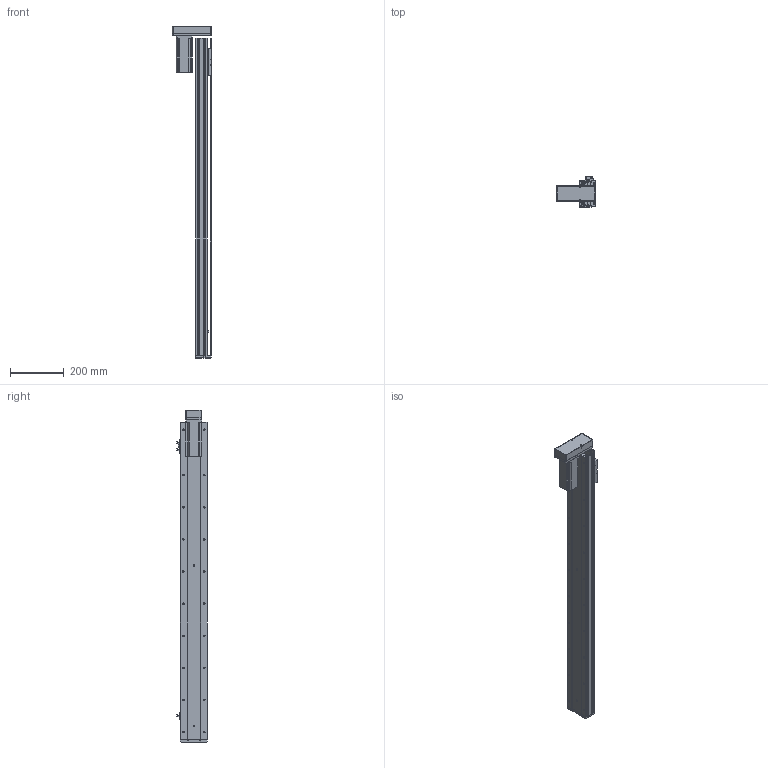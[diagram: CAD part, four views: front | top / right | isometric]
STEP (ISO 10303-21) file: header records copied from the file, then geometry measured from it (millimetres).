
FILE_DESCRIPTION (( 'STEP AP214' ), '1' );
FILE_NAME ('KSD100S-S1000-MD-CM.STEP', '2019-08-30T03:47:00', ( '微软用户' ), ( '微软中国' ), 'SwSTEP 2.0', 'SolidWorks 2014', '' );
FILE_SCHEMA (( 'AUTOMOTIVE_DESIGN' ));
Length unit declared in the file: millimetre
Products named in the file (10): 100遵傷啣; 100宽底板半封闭丝杆1000行程; KSD100S-S1000-MD-CM; 悵誘欶奻狟殏; 100宽马达安装板连板上下折丝杆同步带; 台达ECMA－C20604AS伺服电机; 覜茼え100遵圉猾敕; U倰嫖萇EEㄜSX672; 100宽防尘板丝杆1000行程; 100宽滚珠螺姆安装板半封闭
Assembly tree (11 placements, depth 2):
  KSD100S-S1000-MD-CM
    100宽底板半封闭丝杆1000行程
    100遵傷啣
    100宽滚珠螺姆安装板半封闭
    100宽防尘板丝杆1000行程
    U倰嫖萇EEㄜSX672  x3
    覜茼え100遵圉猾敕
    台达ECMA－C20604AS伺服电机
    100宽马达安装板连板上下折丝杆同步带
    悵誘欶奻狟殏
Bounding box: 147 x 113.7 x 1240.5 mm (x, y, z)
Volume: 2799208.7 mm3; surface area: 917836.4 mm2
Topology: 12 solids, 12 shells, 1283 faces, 3636 edges, 2284 vertices
Faces by surface type: cylinder 627, plane 499, cone 157
Entity records: 46248 total; most frequent: CARTESIAN_POINT 9227, DIRECTION 6049, ORIENTED_EDGE 5864, EDGE_CURVE 2932, AXIS2_PLACEMENT_3D 2198, VERTEX_POINT 1908, LINE 1653, VECTOR 1653
